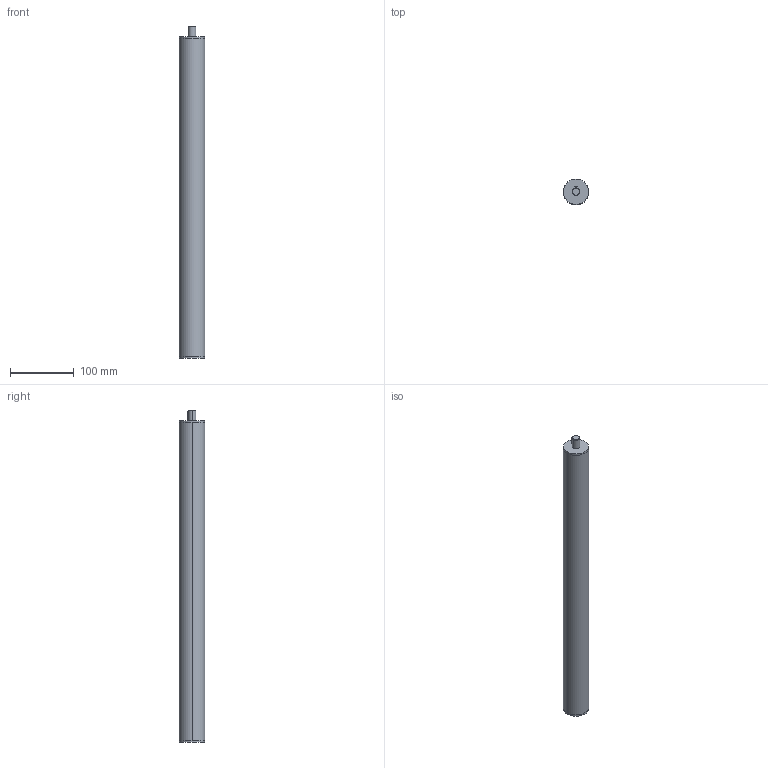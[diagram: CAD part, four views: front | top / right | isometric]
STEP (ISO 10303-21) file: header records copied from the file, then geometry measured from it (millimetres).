
FILE_DESCRIPTION (( 'STEP AP214' ), '1' );
FILE_NAME ('291-40-270-R1-SCR.step', '2023-08-30T05:21:02', ( '' ), ( '' ), 'SwSTEP 2.0', 'SolidWorks 2022', '' );
FILE_SCHEMA (( 'AUTOMOTIVE_DESIGN' ));
Length unit declared in the file: millimetre
Products named in the file (3): 291-40-270-R1-SCR; WB2910 Rund^WBVES_40-270-1; WB2910 mutter^WBVES_Tr20-M5
Assembly tree (2 placements, depth 2):
  291-40-270-R1-SCR
    WB2910 mutter^WBVES_Tr20-M5
    WB2910 Rund^WBVES_40-270-1
Bounding box: 40 x 40 x 522 mm (x, y, z)
Volume: 313447 mm3; surface area: 164324.2 mm2
Topology: 2 solids, 2 shells, 48 faces, 112 edges, 70 vertices
Faces by surface type: cylinder 25, plane 17, cone 6
Entity records: 1847 total; most frequent: CARTESIAN_POINT 426, DIRECTION 246, ORIENTED_EDGE 216, EDGE_CURVE 108, AXIS2_PLACEMENT_3D 96, VERTEX_POINT 70, EDGE_LOOP 58, LINE 54
